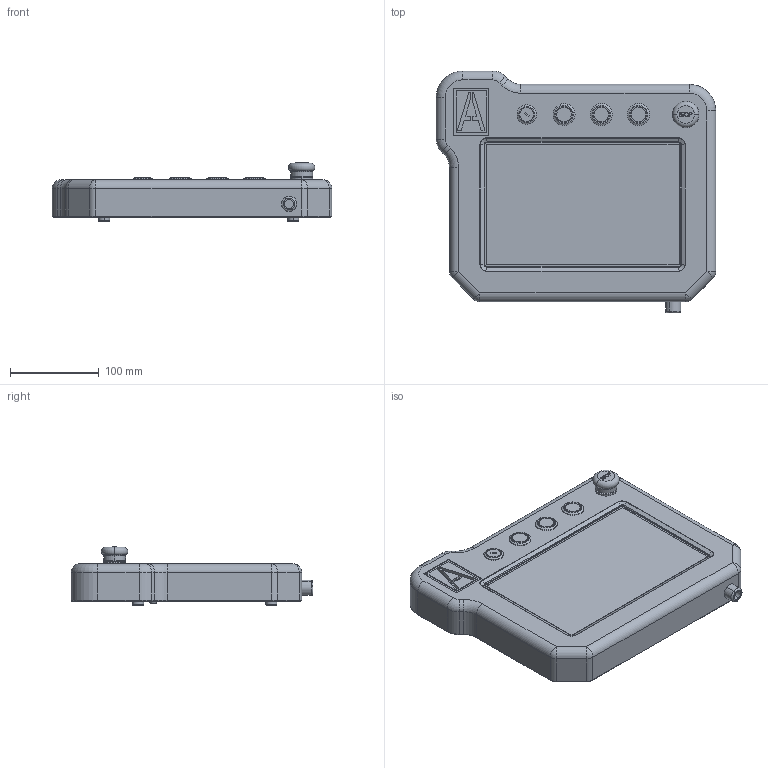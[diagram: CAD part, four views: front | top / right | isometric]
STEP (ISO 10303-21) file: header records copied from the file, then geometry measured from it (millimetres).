
FILE_DESCRIPTION (( 'STEP AP214' ), '1' );
FILE_NAME ('AB-500-R6.1.STEP', '2026-05-20T15:39:15', ( '' ), ( '' ), 'SwSTEP 2.0', 'SolidWorks 2023', '' );
FILE_SCHEMA (( 'AUTOMOTIVE_DESIGN' ));
Length unit declared in the file: millimetre
Products named in the file (25): 101INCH-800X1280-TP.stp; AB-500-R6-1101; Strain Relief Gland^AB-500-R6.1; Copy of 90380A375_Phillips Rounded Head Thread-Forming Screws^AB-500-R6.1_90380A375; Copy of 90380A348_Phillips Rounded Head Thread-Forming Screws^AB-500-R6.1_90380A348; AB-500-R6-1001_8982K545; Momentary Switch-R; Momentary Switch-G; AB-500-R6-1002_8982K545; 8-101INCH-HDMI-PCBA-20220613_ASM.stp; USB-A; Key Switch; AB-500-R6.1-1000; AB-500-R6-1003; 10_1DP-CAPLCD.stp; Copy of 9309K34_Tight-Grip Push-In Bumpers^AB-500-R6.1_9309K34; Momentary Switch-Y; Security Torx M4^AB-500-R6.1; Copy of SW-RA-RED-0022^AB-500-R6.1; Copy of 90485A438_Stainless Steel Flat Head Thread-Forming Screws for Plastic^AB-500-R6.1_90485A438; 10_1DP-CAPLCD; AB-500-R6.1; AB-500-R6-1100; 101INCH-800H_1280V-0428_ASM.stp; AB-500-R6-1004
Assembly tree (30 placements, depth 6):
  AB-500-R6.1
    AB-500-R6.1-1000
    Strain Relief Gland^AB-500-R6.1
    AB-500-R6-1001_8982K545  x2
    AB-500-R6-1002_8982K545  x2
    10_1DP-CAPLCD
      10_1DP-CAPLCD.stp
        8-101INCH-HDMI-PCBA-20220613_ASM.stp
          101INCH-800H_1280V-0428_ASM.stp
            101INCH-800X1280-TP.stp
    AB-500-R6-1003
    AB-500-R6-1004
    Copy of 90485A438_Stainless Steel Flat Head Thread-Forming Screws for Plastic^AB-500-R6.1_90485A438
    Copy of 90380A348_Phillips Rounded Head Thread-Forming Screws^AB-500-R6.1_90380A348
    Copy of 90380A375_Phillips Rounded Head Thread-Forming Screws^AB-500-R6.1_90380A375
    Security Torx M4^AB-500-R6.1
    AB-500-R6-1100
    AB-500-R6-1101  x2
    Copy of 9309K34_Tight-Grip Push-In Bumpers^AB-500-R6.1_9309K34  x4
    Momentary Switch-Y
    Momentary Switch-R
    Momentary Switch-G
    Key Switch
    Copy of SW-RA-RED-0022^AB-500-R6.1
    USB-A
Bounding box: 315 x 272.5 x 65.35 mm (x, y, z)
Volume: 746670.9 mm3; surface area: 549510.5 mm2
Topology: 30 solids, 31 shells, 1769 faces, 4445 edges, 2766 vertices
Faces by surface type: cylinder 671, plane 628, cone 171, torus 160, bspline 113, sphere 26
Entity records: 55815 total; most frequent: CARTESIAN_POINT 17660, DIRECTION 7950, ORIENTED_EDGE 7786, EDGE_CURVE 3893, AXIS2_PLACEMENT_3D 2982, VERTEX_POINT 2446, VECTOR 1986, LINE 1986
